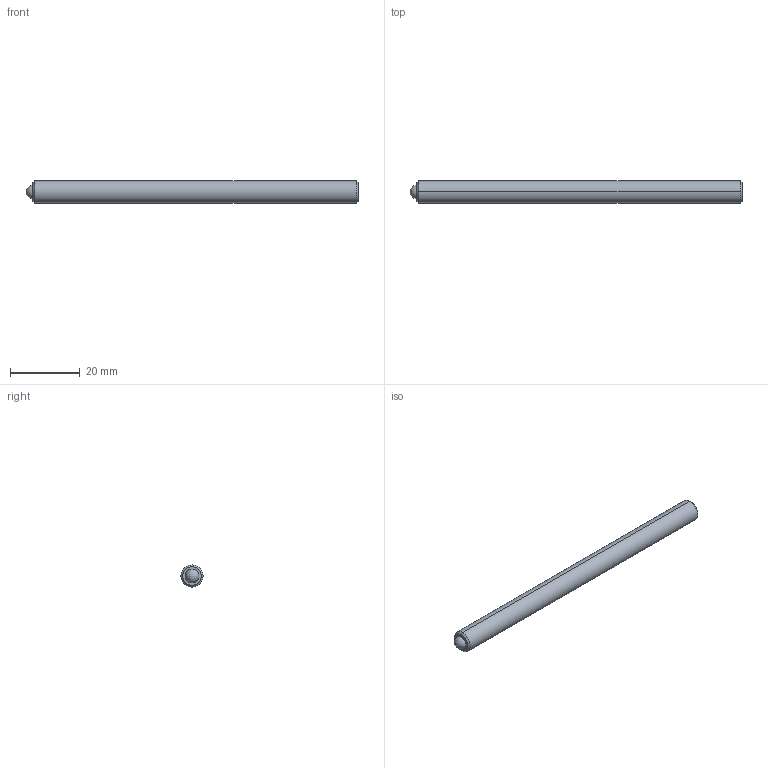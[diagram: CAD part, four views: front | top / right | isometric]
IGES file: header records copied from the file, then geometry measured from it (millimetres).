
Start section: SolidWorks IGES file using analytic representation for surfaces
Global section: file name: C:\Users\workpc\Desktop\KMA Solidworks\TS250-80-3750.IGS; native system: SolidWorks 2013; preprocessor: SolidWorks 2013; author: workpc; date: 130211.161258; units: inch
Bounding box: 95.23 x 6.35 x 6.35 mm (x, y, z)
Surface area: 2004.4 mm2 (no closed solid volume)
Topology: 0 solids, 0 shells, 20 faces, 204 edges, 200 vertices
Faces by surface type: revolution 10, bspline 10
